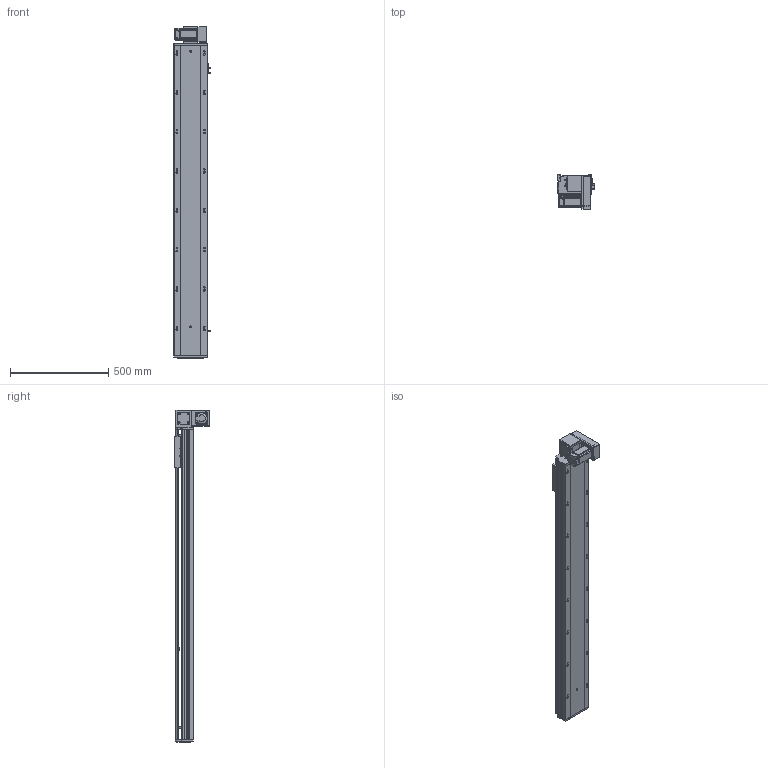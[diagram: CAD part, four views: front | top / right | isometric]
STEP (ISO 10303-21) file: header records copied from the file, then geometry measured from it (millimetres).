
FILE_DESCRIPTION (( 'STEP AP203' ), '1' );
FILE_NAME ('RY170-T-300-DR-P400W.SLDASM_1300.step', '2021-03-01T08:23:51', ( '盈信电脑' ), ( '东莞市道滘镇水果街19号' ), 'SwSTEP 2.0', 'SolidWorks 2012', '' );
FILE_SCHEMA (( 'CONFIG_CONTROL_DESIGN' ));
Length unit declared in the file: millimetre
Products named in the file (19): RY170-T-300-DR-P400W.SLDASM_1300; 15; 滅袉蝶18-10; RY170-T-呴雄粣揤踡啣; RY170-T蹟翐M4; RY170-T肮祭謫裔啣; RY170-T肮祭湍揤踡輸1; RY120-T主同步轮轴承压盖; RY170-T肮祭湍揤踡輸2; RY170肮祭謫萇儂欶; RY170同步轮电机安装板(400W); RY170翋肮祭謫釱; RY170肮祭謫ヶ裔啣; RY170外置感应片(200共用）; 覜茼ん672; RY170綴裔啣; RY170肮祭湍臏賑輸; RY170-T-300肮祭謫倰第裔啣-DR_1300; RY170-T-300肮祭謫倰第菁釱-DR_1300
Assembly tree (23 placements, depth 2):
  RY170-T-300-DR-P400W.SLDASM_1300
    RY170-T-300肮祭謫倰第菁釱-DR_1300
    RY170肮祭湍臏賑輸
    RY170-T-300肮祭謫倰第裔啣-DR_1300
    RY170綴裔啣
    覜茼ん672  x3
    RY170外置感应片(200共用）
    RY170肮祭謫ヶ裔啣
    RY170翋肮祭謫釱
    RY170同步轮电机安装板(400W)
    RY170肮祭謫萇儂欶
    RY170-T肮祭湍揤踡輸1  x2
    RY170-T肮祭湍揤踡輸2  x2
    RY120-T主同步轮轴承压盖
    RY170-T肮祭謫裔啣
    RY170-T蹟翐M4
    滅袉蝶18-10  x2
    RY170-T-呴雄粣揤踡啣
    15
Bounding box: 183.7 x 178 x 1688 mm (x, y, z)
Volume: 8172320.6 mm3; surface area: 2786937.2 mm2
Topology: 23 solids, 23 shells, 2822 faces, 7826 edges, 5009 vertices
Faces by surface type: cylinder 1266, plane 1266, cone 260, bspline 30
Entity records: 84197 total; most frequent: CARTESIAN_POINT 18706, ORIENTED_EDGE 13312, DIRECTION 13138, EDGE_CURVE 6656, AXIS2_PLACEMENT_3D 4631, VERTEX_POINT 4365, LINE 3876, VECTOR 3876
